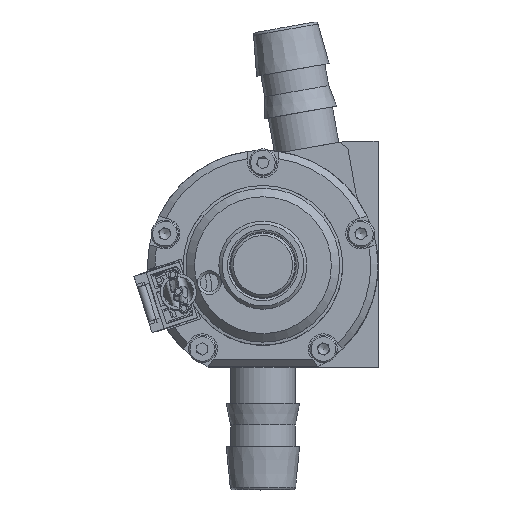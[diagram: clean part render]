
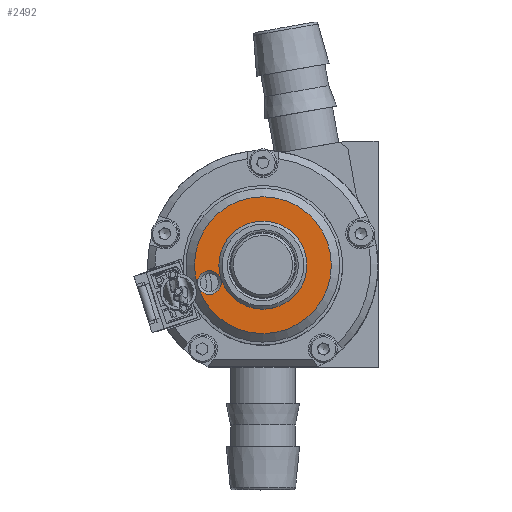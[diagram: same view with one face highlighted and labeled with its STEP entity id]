
A CAD part, top view. The second image highlights one B-rep face of the part: STEP entity #2492.
In plain terms, the highlighted planar face has unit normal (0, 0, 1).
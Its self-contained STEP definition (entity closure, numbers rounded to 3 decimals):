
#541 = EDGE_CURVE ( 'NONE', #1489, #1489, #2129, .T. ) ;
#675 = CARTESIAN_POINT ( 'NONE',  ( -6.1, 0., 30.495 ) ) ;
#805 = AXIS2_PLACEMENT_3D ( 'NONE', #8894, #7047, #6112 ) ;
#1489 = VERTEX_POINT ( 'NONE', #2436 ) ;
#1541 = FACE_BOUND ( 'NONE', #2043, .T. ) ;
#1992 = AXIS2_PLACEMENT_3D ( 'NONE', #5356, #4424, #8136 ) ;
#2043 = EDGE_LOOP ( 'NONE', ( #8908 ) ) ;
#2129 = CIRCLE ( 'NONE', #7749, 9.48 ) ;
#2436 = CARTESIAN_POINT ( 'NONE',  ( 9.48, 0., 30.495 ) ) ;
#2492 = ADVANCED_FACE ( 'NONE', ( #11107, #3293, #1541 ), #3489, .T. ) ;
#2644 = CIRCLE ( 'NONE', #5038, 6.1 ) ;
#2810 = DIRECTION ( 'NONE',  ( -1., 0., 0. ) ) ;
#3293 = FACE_OUTER_BOUND ( 'NONE', #10994, .T. ) ;
#3489 = PLANE ( 'NONE',  #1992 ) ;
#3546 = EDGE_CURVE ( 'NONE', #11381, #11381, #6205, .T. ) ;
#3764 = DIRECTION ( 'NONE',  ( 0., 0., -1. ) ) ;
#3981 = EDGE_CURVE ( 'NONE', #5628, #5628, #2644, .T. ) ;
#4424 = DIRECTION ( 'NONE',  ( 0., 0., 1. ) ) ;
#5038 = AXIS2_PLACEMENT_3D ( 'NONE', #11578, #3764, #2810 ) ;
#5356 = CARTESIAN_POINT ( 'NONE',  ( 0., 12.184, 30.495 ) ) ;
#5439 = CARTESIAN_POINT ( 'NONE',  ( -5.768, -2.41, 30.495 ) ) ;
#5628 = VERTEX_POINT ( 'NONE', #675 ) ;
#6112 = DIRECTION ( 'NONE',  ( 1., 0., 0. ) ) ;
#6205 = CIRCLE ( 'NONE', #805, 1.65 ) ;
#7047 = DIRECTION ( 'NONE',  ( 0., 0., 1. ) ) ;
#7461 = EDGE_LOOP ( 'NONE', ( #8863 ) ) ;
#7632 = DIRECTION ( 'NONE',  ( 1., 0., 0. ) ) ;
#7749 = AXIS2_PLACEMENT_3D ( 'NONE', #11441, #10487, #7632 ) ;
#8136 = DIRECTION ( 'NONE',  ( 1., 0., 0. ) ) ;
#8863 = ORIENTED_EDGE ( 'NONE', *, *, #3546, .F. ) ;
#8894 = CARTESIAN_POINT ( 'NONE',  ( -7.418, -2.41, 30.495 ) ) ;
#8908 = ORIENTED_EDGE ( 'NONE', *, *, #3981, .T. ) ;
#10487 = DIRECTION ( 'NONE',  ( 0., 0., -1. ) ) ;
#10994 = EDGE_LOOP ( 'NONE', ( #11790 ) ) ;
#11107 = FACE_BOUND ( 'NONE', #7461, .T. ) ;
#11381 = VERTEX_POINT ( 'NONE', #5439 ) ;
#11441 = CARTESIAN_POINT ( 'NONE',  ( 0., 0., 30.495 ) ) ;
#11578 = CARTESIAN_POINT ( 'NONE',  ( 0., 0., 30.495 ) ) ;
#11790 = ORIENTED_EDGE ( 'NONE', *, *, #541, .F. ) ;
